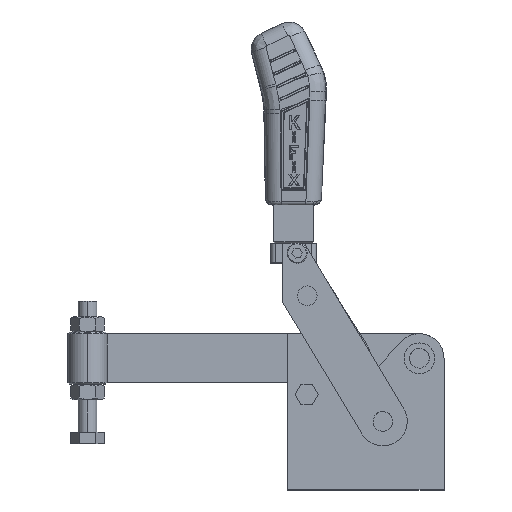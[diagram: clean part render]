
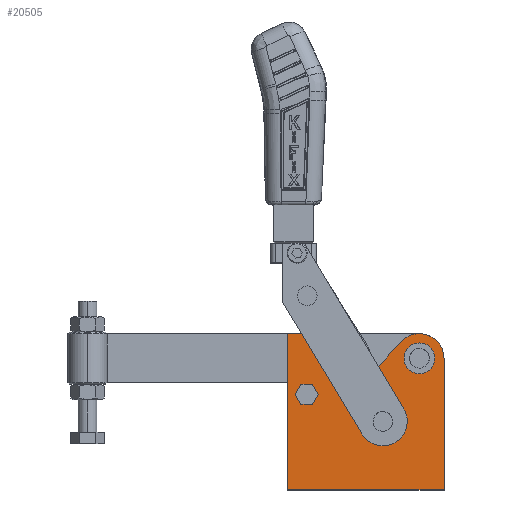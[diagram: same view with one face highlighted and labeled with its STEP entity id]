
A CAD part, top view. The second image highlights one B-rep face of the part: STEP entity #20505.
In plain terms, the highlighted planar face has unit normal (0, 0, 1).
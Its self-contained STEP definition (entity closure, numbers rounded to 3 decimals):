
#114 = CIRCLE ( 'NONE', #11234, 10. ) ;
#200 = CARTESIAN_POINT ( 'NONE',  ( 23.072, 96.384, 0. ) ) ;
#216 = CARTESIAN_POINT ( 'NONE',  ( -50.8, 0., 0. ) ) ;
#951 = PLANE ( 'NONE',  #24433 ) ;
#1036 = CIRCLE ( 'NONE', #24054, 6.35 ) ;
#1673 = ORIENTED_EDGE ( 'NONE', *, *, #12606, .F. ) ;
#2366 = EDGE_LOOP ( 'NONE', ( #11605, #4290 ) ) ;
#2934 = VECTOR ( 'NONE', #7970, 1000. ) ;
#3090 = LINE ( 'NONE', #10584, #28868 ) ;
#3108 = ORIENTED_EDGE ( 'NONE', *, *, #22537, .T. ) ;
#3223 = CARTESIAN_POINT ( 'NONE',  ( -12.55, 85.931, 0. ) ) ;
#3351 = VECTOR ( 'NONE', #21486, 1000. ) ;
#3423 = DIRECTION ( 'NONE',  ( 0., 0., 1. ) ) ;
#4090 = CARTESIAN_POINT ( 'NONE',  ( -20.91, 68.869, 0. ) ) ;
#4290 = ORIENTED_EDGE ( 'NONE', *, *, #16124, .F. ) ;
#4815 = VERTEX_POINT ( 'NONE', #8382 ) ;
#5384 = FACE_BOUND ( 'NONE', #2366, .T. ) ;
#5511 = VERTEX_POINT ( 'NONE', #9830 ) ;
#5607 = DIRECTION ( 'NONE',  ( 1., 0., 0. ) ) ;
#5658 = DIRECTION ( 'NONE',  ( 0., 0., 1. ) ) ;
#5794 = DIRECTION ( 'NONE',  ( 0., 0., 1. ) ) ;
#6041 = CARTESIAN_POINT ( 'NONE',  ( 11., 44.5, 0. ) ) ;
#6354 = CARTESIAN_POINT ( 'NONE',  ( 34.8, 85.5, 0. ) ) ;
#6480 = DIRECTION ( 'NONE',  ( -0.53, 0.848, 0. ) ) ;
#7186 = ORIENTED_EDGE ( 'NONE', *, *, #12231, .T. ) ;
#7655 = CARTESIAN_POINT ( 'NONE',  ( -41.3, 101.5, 0. ) ) ;
#7730 = CARTESIAN_POINT ( 'NONE',  ( 50.8, 85.5, 0. ) ) ;
#7864 = CIRCLE ( 'NONE', #18824, 16. ) ;
#7970 = DIRECTION ( 'NONE',  ( -1., 0., 0. ) ) ;
#8030 = CARTESIAN_POINT ( 'NONE',  ( -50.8, 0., 0. ) ) ;
#8172 = CARTESIAN_POINT ( 'NONE',  ( 24.8, 85.5, 0. ) ) ;
#8382 = CARTESIAN_POINT ( 'NONE',  ( 17.35, 44.5, 0. ) ) ;
#8478 = DIRECTION ( 'NONE',  ( 1., 0., 0. ) ) ;
#8663 = AXIS2_PLACEMENT_3D ( 'NONE', #3223, #20181, #5607 ) ;
#8796 = DIRECTION ( 'NONE',  ( 1., 0., 0. ) ) ;
#9339 = LINE ( 'NONE', #7655, #2934 ) ;
#9353 = CARTESIAN_POINT ( 'NONE',  ( 50.8, 0., 0. ) ) ;
#9440 = ORIENTED_EDGE ( 'NONE', *, *, #21939, .T. ) ;
#9701 = DIRECTION ( 'NONE',  ( 0., -1., 0. ) ) ;
#9716 = LINE ( 'NONE', #9353, #3351 ) ;
#9830 = CARTESIAN_POINT ( 'NONE',  ( -34., 62., 0. ) ) ;
#9892 = EDGE_LOOP ( 'NONE', ( #7186, #16027, #24525, #24402, #29378, #9440, #25327, #3108 ) ) ;
#10477 = ORIENTED_EDGE ( 'NONE', *, *, #13017, .F. ) ;
#10489 = DIRECTION ( 'NONE',  ( -0.68, -0.733, 0. ) ) ;
#10580 = VERTEX_POINT ( 'NONE', #8172 ) ;
#10584 = CARTESIAN_POINT ( 'NONE',  ( 23.072, 96.384, 0. ) ) ;
#10783 = ORIENTED_EDGE ( 'NONE', *, *, #13345, .F. ) ;
#10939 = CIRCLE ( 'NONE', #8663, 19. ) ;
#10967 = VERTEX_POINT ( 'NONE', #216 ) ;
#11234 = AXIS2_PLACEMENT_3D ( 'NONE', #6354, #23362, #8796 ) ;
#11605 = ORIENTED_EDGE ( 'NONE', *, *, #29119, .F. ) ;
#11737 = EDGE_CURVE ( 'NONE', #20405, #29362, #7864, .T. ) ;
#11841 = FACE_OUTER_BOUND ( 'NONE', #9892, .T. ) ;
#11860 = CARTESIAN_POINT ( 'NONE',  ( 1.377, 73.006, 0. ) ) ;
#11972 = EDGE_CURVE ( 'NONE', #29337, #20405, #9716, .T. ) ;
#12156 = CARTESIAN_POINT ( 'NONE',  ( 50.8, 0., 0. ) ) ;
#12229 = AXIS2_PLACEMENT_3D ( 'NONE', #6041, #23039, #8478 ) ;
#12231 = EDGE_CURVE ( 'NONE', #17568, #24359, #9339, .T. ) ;
#12404 = CARTESIAN_POINT ( 'NONE',  ( 34.8, 85.5, 0. ) ) ;
#12606 = EDGE_CURVE ( 'NONE', #4815, #28391, #17401, .T. ) ;
#12913 = DIRECTION ( 'NONE',  ( 1., 0., 0. ) ) ;
#13017 = EDGE_CURVE ( 'NONE', #28391, #4815, #1036, .T. ) ;
#13345 = EDGE_CURVE ( 'NONE', #28140, #5511, #20024, .T. ) ;
#13401 = CARTESIAN_POINT ( 'NONE',  ( 34.8, 85.5, 0. ) ) ;
#13589 = DIRECTION ( 'NONE',  ( 0., 0., 1. ) ) ;
#13641 = VERTEX_POINT ( 'NONE', #28572 ) ;
#13747 = EDGE_LOOP ( 'NONE', ( #1673, #10477 ) ) ;
#13767 = CIRCLE ( 'NONE', #13975, 10. ) ;
#13975 = AXIS2_PLACEMENT_3D ( 'NONE', #12404, #29396, #14858 ) ;
#14565 = EDGE_CURVE ( 'NONE', #10967, #29337, #28669, .T. ) ;
#14614 = CARTESIAN_POINT ( 'NONE',  ( -50.8, 101.5, 0. ) ) ;
#14858 = DIRECTION ( 'NONE',  ( 1., 0., 0. ) ) ;
#15372 = VERTEX_POINT ( 'NONE', #23103 ) ;
#15880 = DIRECTION ( 'NONE',  ( 1., 0., 0. ) ) ;
#16027 = ORIENTED_EDGE ( 'NONE', *, *, #16653, .T. ) ;
#16124 = EDGE_CURVE ( 'NONE', #10580, #15372, #13767, .T. ) ;
#16390 = CIRCLE ( 'NONE', #23649, 4.5 ) ;
#16653 = EDGE_CURVE ( 'NONE', #24359, #10967, #25548, .T. ) ;
#17401 = CIRCLE ( 'NONE', #12229, 6.35 ) ;
#17568 = VERTEX_POINT ( 'NONE', #18600 ) ;
#18600 = CARTESIAN_POINT ( 'NONE',  ( -41.3, 101.5, 0. ) ) ;
#18824 = AXIS2_PLACEMENT_3D ( 'NONE', #13401, #30405, #15880 ) ;
#18885 = ORIENTED_EDGE ( 'NONE', *, *, #21523, .F. ) ;
#19609 = AXIS2_PLACEMENT_3D ( 'NONE', #20247, #5658, #22665 ) ;
#20024 = CIRCLE ( 'NONE', #19609, 4.5 ) ;
#20181 = DIRECTION ( 'NONE',  ( 0., 0., -1. ) ) ;
#20247 = CARTESIAN_POINT ( 'NONE',  ( -38.5, 62., 0. ) ) ;
#20380 = CARTESIAN_POINT ( 'NONE',  ( 11., 44.5, 0. ) ) ;
#20385 = DIRECTION ( 'NONE',  ( 1., 0., 0. ) ) ;
#20405 = VERTEX_POINT ( 'NONE', #7730 ) ;
#20505 = ADVANCED_FACE ( 'NONE', ( #5384, #24781, #31225, #11841 ), #951, .T. ) ;
#20852 = CARTESIAN_POINT ( 'NONE',  ( -43., 62., 0. ) ) ;
#20952 = CARTESIAN_POINT ( 'NONE',  ( -50.8, 101.5, 0. ) ) ;
#21329 = EDGE_LOOP ( 'NONE', ( #18885, #10783 ) ) ;
#21486 = DIRECTION ( 'NONE',  ( 0., 1., 0. ) ) ;
#21523 = EDGE_CURVE ( 'NONE', #5511, #28140, #16390, .T. ) ;
#21939 = EDGE_CURVE ( 'NONE', #29362, #22916, #3090, .T. ) ;
#22537 = EDGE_CURVE ( 'NONE', #13641, #17568, #28092, .T. ) ;
#22665 = DIRECTION ( 'NONE',  ( 1., 0., 0. ) ) ;
#22797 = DIRECTION ( 'NONE',  ( 1., 0., 0. ) ) ;
#22916 = VERTEX_POINT ( 'NONE', #11860 ) ;
#23039 = DIRECTION ( 'NONE',  ( 0., 0., 1. ) ) ;
#23103 = CARTESIAN_POINT ( 'NONE',  ( 44.8, 85.5, 0. ) ) ;
#23362 = DIRECTION ( 'NONE',  ( 0., 0., 1. ) ) ;
#23649 = AXIS2_PLACEMENT_3D ( 'NONE', #28143, #13589, #30583 ) ;
#24054 = AXIS2_PLACEMENT_3D ( 'NONE', #20380, #5794, #22797 ) ;
#24096 = CARTESIAN_POINT ( 'NONE',  ( 4.65, 44.5, 0. ) ) ;
#24359 = VERTEX_POINT ( 'NONE', #20952 ) ;
#24402 = ORIENTED_EDGE ( 'NONE', *, *, #11972, .T. ) ;
#24433 = AXIS2_PLACEMENT_3D ( 'NONE', #30019, #3423, #20385 ) ;
#24525 = ORIENTED_EDGE ( 'NONE', *, *, #14565, .T. ) ;
#24775 = EDGE_CURVE ( 'NONE', #22916, #13641, #10939, .T. ) ;
#24781 = FACE_BOUND ( 'NONE', #21329, .T. ) ;
#25327 = ORIENTED_EDGE ( 'NONE', *, *, #24775, .T. ) ;
#25548 = LINE ( 'NONE', #14614, #31240 ) ;
#27172 = VECTOR ( 'NONE', #12913, 1000. ) ;
#27349 = VECTOR ( 'NONE', #6480, 1000. ) ;
#28092 = LINE ( 'NONE', #4090, #27349 ) ;
#28140 = VERTEX_POINT ( 'NONE', #20852 ) ;
#28143 = CARTESIAN_POINT ( 'NONE',  ( -38.5, 62., 0. ) ) ;
#28391 = VERTEX_POINT ( 'NONE', #24096 ) ;
#28572 = CARTESIAN_POINT ( 'NONE',  ( -20.91, 68.869, 0. ) ) ;
#28669 = LINE ( 'NONE', #8030, #27172 ) ;
#28868 = VECTOR ( 'NONE', #10489, 1000. ) ;
#29119 = EDGE_CURVE ( 'NONE', #15372, #10580, #114, .T. ) ;
#29337 = VERTEX_POINT ( 'NONE', #12156 ) ;
#29362 = VERTEX_POINT ( 'NONE', #200 ) ;
#29378 = ORIENTED_EDGE ( 'NONE', *, *, #11737, .T. ) ;
#29396 = DIRECTION ( 'NONE',  ( 0., 0., 1. ) ) ;
#30019 = CARTESIAN_POINT ( 'NONE',  ( 34.8, 85.5, 0. ) ) ;
#30405 = DIRECTION ( 'NONE',  ( 0., 0., 1. ) ) ;
#30583 = DIRECTION ( 'NONE',  ( 1., 0., 0. ) ) ;
#31225 = FACE_BOUND ( 'NONE', #13747, .T. ) ;
#31240 = VECTOR ( 'NONE', #9701, 1000. ) ;
